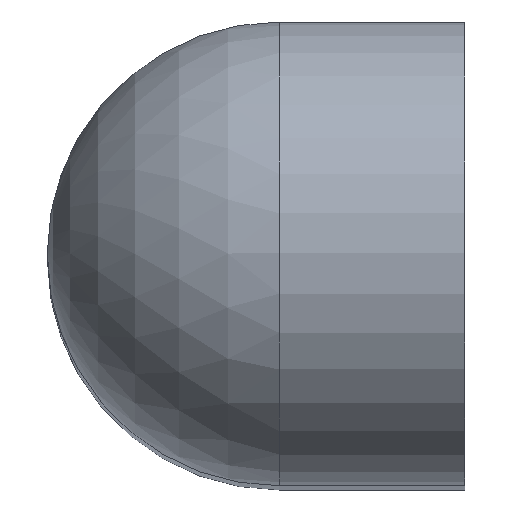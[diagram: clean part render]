
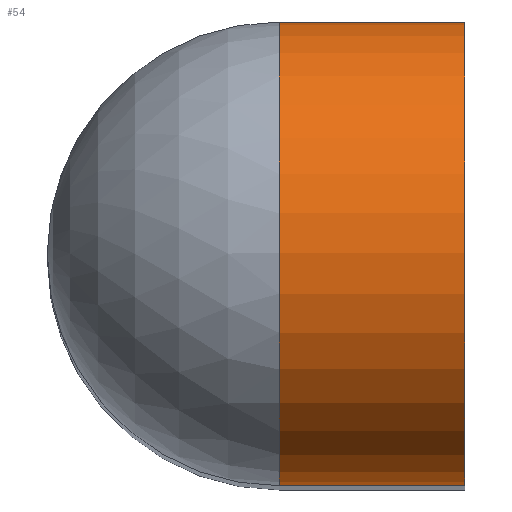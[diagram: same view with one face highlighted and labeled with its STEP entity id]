
A CAD part, top view. The second image highlights one B-rep face of the part: STEP entity #54.
In plain terms, the highlighted cylindrical face has radius 12.5 mm (diameter 25 mm), a partial arc.
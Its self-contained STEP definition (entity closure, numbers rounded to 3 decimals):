
#54=ADVANCED_FACE('',(#74),#76,.T.);
#74=FACE_BOUND('',#75,.T.);
#75=EDGE_LOOP('',(#181,#182,#183,#184));
#76=CYLINDRICAL_SURFACE('',#77,12.5);
#77=AXIS2_PLACEMENT_3D('',#78,#79,#80);
#78=CARTESIAN_POINT('',(-90.,0.,240.));
#79=DIRECTION('',(-1.,0.,0.));
#80=DIRECTION('',(0.,-1.,0.));
#181=ORIENTED_EDGE('',*,*,#225,.F.);
#182=ORIENTED_EDGE('',*,*,#226,.F.);
#183=ORIENTED_EDGE('',*,*,#227,.T.);
#184=ORIENTED_EDGE('',*,*,#222,.T.);
#222=EDGE_CURVE('',#246,#243,#247,.T.);
#225=EDGE_CURVE('',#251,#243,#252,.T.);
#226=EDGE_CURVE('',#253,#251,#254,.T.);
#227=EDGE_CURVE('',#253,#246,#255,.T.);
#243=VERTEX_POINT('',#281);
#246=VERTEX_POINT('',#286);
#247=LINE('',#287,#288);
#251=VERTEX_POINT('',#297);
#252=CIRCLE('',#298,12.5);
#253=VERTEX_POINT('',#302);
#254=LINE('',#303,#304);
#255=CIRCLE('',#306,12.5);
#281=CARTESIAN_POINT('',(-100.,12.5,240.));
#286=CARTESIAN_POINT('',(-90.,12.5,240.));
#287=CARTESIAN_POINT('',(-90.,12.5,240.));
#288=VECTOR('',#289,1.);
#289=DIRECTION('',(-1.,0.,0.));
#297=CARTESIAN_POINT('',(-100.,-12.5,240.));
#298=AXIS2_PLACEMENT_3D('',#299,#300,#301);
#299=CARTESIAN_POINT('',(-100.,0.,240.));
#300=DIRECTION('',(-1.,0.,0.));
#301=DIRECTION('',(0.,-1.,0.));
#302=CARTESIAN_POINT('',(-90.,-12.5,240.));
#303=CARTESIAN_POINT('',(-90.,-12.5,240.));
#304=VECTOR('',#305,1.);
#305=DIRECTION('',(-1.,0.,0.));
#306=AXIS2_PLACEMENT_3D('',#307,#308,#309);
#307=CARTESIAN_POINT('',(-90.,0.,240.));
#308=DIRECTION('',(-1.,0.,0.));
#309=DIRECTION('',(0.,-1.,0.));
